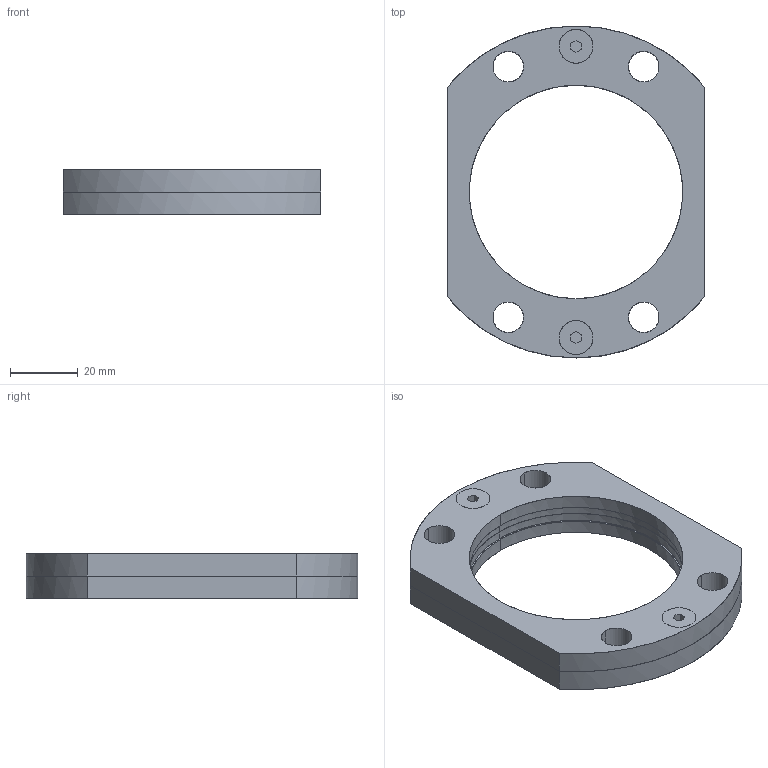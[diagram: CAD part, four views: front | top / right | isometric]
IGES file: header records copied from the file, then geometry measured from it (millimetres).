
Global section: file name: E:\UnigraphicsGraphicData\MISUMI_PRESS-PARTS\IGES\3d_fm-63_03759_r00.igs; native system: NX V5.0; preprocessor: UGS NX IGES V5.0; author: MISUMI; date: 20110105.160645; units: millimetre
Bounding box: 76 x 98 x 13 mm (x, y, z)
Surface area: 21799.7 mm2 (no closed solid volume)
Topology: 0 solids, 0 shells, 80 faces, 688 edges, 688 vertices
Faces by surface type: bspline 80
